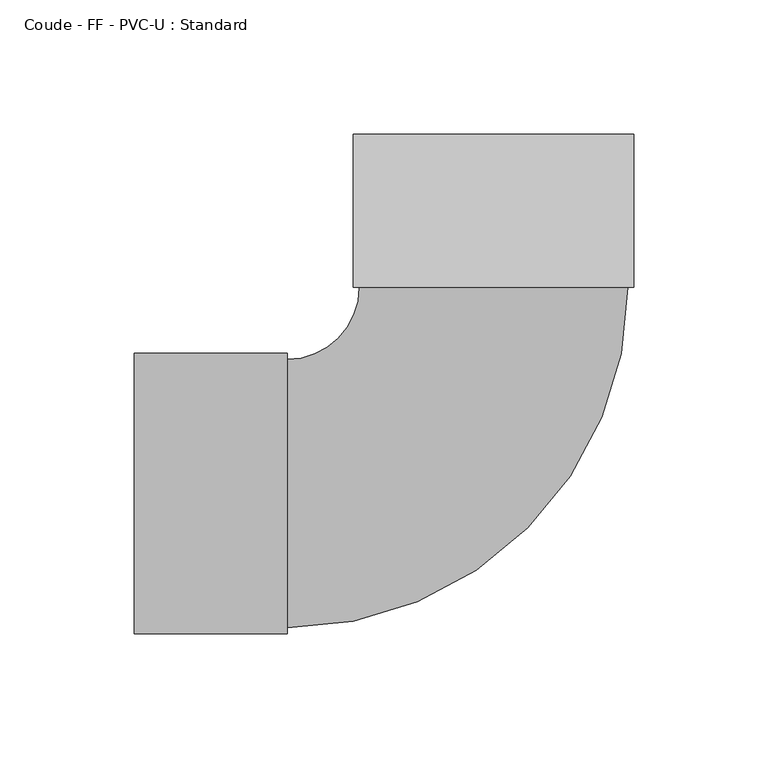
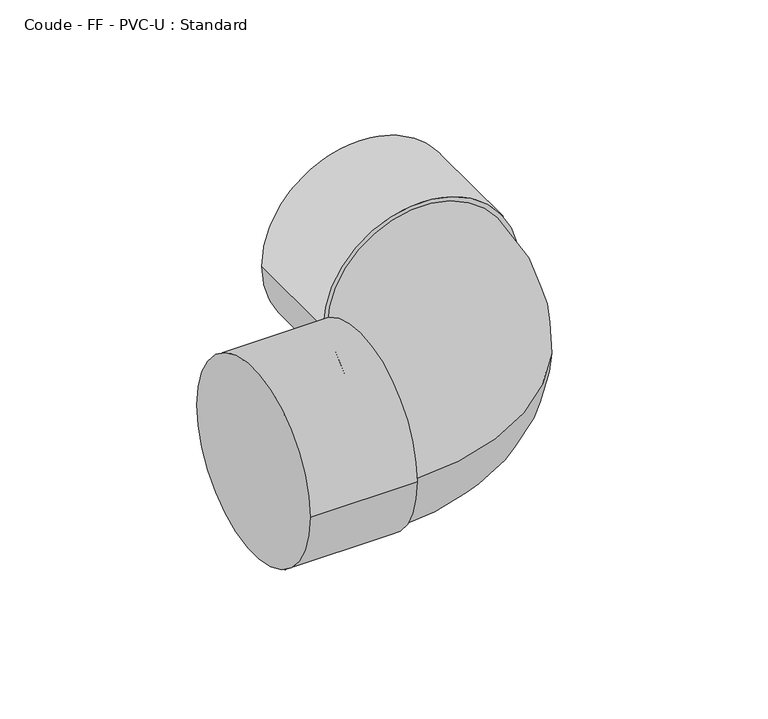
"""IFC4 building model written with IfcOpenShell, lengths in millimetres: pipe fitting geometry, Coude - FF - PVC-U : Standard."""

from ifc_helpers import new_model, si_unit, point, frame, origin, place, context, project, spatial, circle_curve, ellipse_curve, trimmed, source, transform, mapped, element, save
from ifc_brep_helpers import plane_surface, cylinder_surface, revolved_surface, advanced_brep


def coude_ff_pvc_u_standard_f969a64e(model_context):
    return source(origin(), model_context, "Body", "AdvancedBrep", [
        advanced_brep(
        [(-134.0, -52.3, 0.0), (-134.0, 52.3, 0.0), (-77.0, -52.3, 0.0), (-77.0, 52.3, 0.0), (-77.0, -50.0, 0.0), (-77.0, 50.0, 0.0), (-49.9923005, 77.0049991, 0.0), (50.007699, 76.9950001, 0.0), (52.307699, 76.9947701, 0.0), (-52.2923005, 77.0052291, 0.0), (52.3133984, 133.9947699, 0.0), (-52.2866011, 134.0052288, 0.0)],
        [
            (0, 1, circle_curve(frame((-134.0, 0.0, 0.0), z_axis=(-1.0, 0.0, 0.0), x_axis=(0.0, 1.0, 0.0)), 52.3)),
            (1, 0, circle_curve(frame((-134.0, 0.0, 0.0), z_axis=(-1.0, 0.0, 0.0), x_axis=(0.0, 1.0, 0.0)), 52.3)),
            (2, 3, circle_curve(frame((-77.0, 0.0, 0.0), z_axis=(1.0, 0.0, 0.0), x_axis=(0.0, 1.0, 0.0)), 52.3)),
            (3, 2, circle_curve(frame((-77.0, 0.0, 0.0), z_axis=(1.0, 0.0, 0.0), x_axis=(0.0, 1.0, 0.0)), 52.3)),
            (4, 5, circle_curve(frame((-77.0, 0.0, 0.0), z_axis=(-1.0, 0.0, 0.0), x_axis=(0.0, 1.0, 0.0)), 50.0)),
            (5, 4, circle_curve(frame((-77.0, 0.0, 0.0), z_axis=(-1.0, 0.0, 0.0), x_axis=(0.0, 1.0, 0.0)), 50.0)),
            (0, 2),
            (3, 1),
            (6, 5, circle_curve(frame((-77.0, 77.0076996, 0.0), z_axis=(0.0, 0.0, -1.0), x_axis=(0.0, -1.0, 0.0)), 27.0076996)),
            (4, 7, circle_curve(frame((-77.0, 77.0076996, 0.0), z_axis=(0.0, 0.0, 1.0), x_axis=(0.0, -1.0, 0.0)), 127.0076996)),
            (7, 6, circle_curve(frame((0.0076992, 76.9999996, 0.0), z_axis=(-9.999000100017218e-05, -0.9999999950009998, 0.0), x_axis=(-0.9999999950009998, 9.999000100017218e-05, 0.0)), 50.0)),
            (6, 7, circle_curve(frame((0.0076992, 76.9999996, 0.0), z_axis=(-9.999000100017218e-05, -0.9999999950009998, 0.0), x_axis=(-0.9999999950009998, 9.999000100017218e-05, 0.0)), 50.0)),
            (8, 9, circle_curve(frame((0.0076992, 76.9999996, 0.0), z_axis=(-9.999000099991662e-05, -0.999999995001, 0.0), x_axis=(-0.999999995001, 9.999000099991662e-05, 0.0)), 52.3)),
            (9, 8, circle_curve(frame((0.0076992, 76.9999996, 0.0), z_axis=(-9.999000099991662e-05, -0.999999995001, 0.0), x_axis=(-0.999999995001, 9.999000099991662e-05, 0.0)), 52.3)),
            (10, 11, circle_curve(frame((0.0133987, 133.9999993, 0.0), z_axis=(9.999000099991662e-05, 0.999999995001, 0.0), x_axis=(-0.999999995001, 9.999000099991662e-05, 0.0)), 52.3)),
            (11, 10, circle_curve(frame((0.0133987, 133.9999993, 0.0), z_axis=(9.999000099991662e-05, 0.999999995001, 0.0), x_axis=(-0.999999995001, 9.999000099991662e-05, 0.0)), 52.3)),
            (8, 10),
            (11, 9),
        ],
        [
            plane_surface(frame((-134.0, 0.0, 0.0), z_axis=(-1.0, 0.0, 0.0), x_axis=(0.0, 0.0, 1.0))),
            plane_surface(frame((-77.0, 0.0, 0.0), z_axis=(1.0, 0.0, 0.0), x_axis=(0.0, 0.0, 1.0))),
            cylinder_surface(frame((-134.0, 0.0, 0.0), z_axis=(-1.0, 0.0, 0.0), x_axis=(0.0, 1.0, 0.0)), 52.3),
            revolved_surface(trimmed(ellipse_curve(frame((-77.0, 0.0, 0.0), z_axis=(-1.0, 0.0, 0.0), x_axis=(0.0, 1.0, 0.0)), 50.0, 50.0), [point((-77.0, -50.0, 0.0))], [point((-77.0, 50.0, 0.0))], True, "CARTESIAN"), (-77.0, 77.0076996, 0.0), (0.0, 0.0, 1.0)),
            revolved_surface(trimmed(ellipse_curve(frame((-77.0, 0.0, 0.0), z_axis=(-1.0, 0.0, 0.0), x_axis=(0.0, 1.0, 0.0)), 50.0, 50.0), [point((-77.0, 50.0, 0.0))], [point((-77.0, -50.0, 0.0))], True, "CARTESIAN"), (-77.0, 77.0076996, 0.0), (0.0, 0.0, 1.0)),
            plane_surface(frame((0.0076992, 76.9999996, 0.0), z_axis=(-9.999000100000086e-05, -0.9999999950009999, 0.0), x_axis=(0.0, 0.0, 1.0))),
            plane_surface(frame((0.0133987, 133.9999993, 0.0), z_axis=(9.999000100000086e-05, 0.9999999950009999, 0.0), x_axis=(0.0, 0.0, 1.0))),
            cylinder_surface(frame((0.0076992, 76.9999996, 0.0), z_axis=(-9.999000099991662e-05, -0.999999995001, 0.0), x_axis=(-0.999999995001, 9.999000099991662e-05, 0.0)), 52.3),
        ],
        [
            (0, [[1, 2]]),
            (1, [[3, 4], [5, 6]]),
            (2, [[-1, 7, -4, 8]]),
            (2, [[-2, -8, -3, -7]]),
            (3, [[9, -5, 10, 11]]),
            (4, [[-9, 12, -10, -6]]),
            (5, [[13, 14], [-11, -12]]),
            (6, [[15, 16]]),
            (7, [[-13, 17, -16, 18]]),
            (7, [[-14, -18, -15, -17]]),
        ],
    ),
    ])


if __name__ == "__main__":
    model = new_model("IFC4")
    model_context = context("Model", 3, world=origin())
    ifc_project = project(units=[si_unit("LENGTHUNIT", "METRE", prefix="MILLI")], contexts=[model_context])
    site = spatial("IfcSite", under=ifc_project)
    building = spatial("IfcBuilding", under=site)
    placement = place(None, origin())
    coude_ff_pvc_u_standard_shape = coude_ff_pvc_u_standard_f969a64e(model_context)
    element("IfcPipeFitting", 1, ObjectType="Coude - FF - PVC-U : Standard", at=placement, inside=building, context=model_context, shape_type="MappedRepresentation", body=[
        mapped(coude_ff_pvc_u_standard_shape, transform((0.0, 0.0, 0.0), x_axis=(1.0, 0.0, 0.0), y_axis=(0.0, 1.0, 0.0), z_axis=(0.0, 0.0, 1.0))),
    ])
    save(model, "model.ifc")
